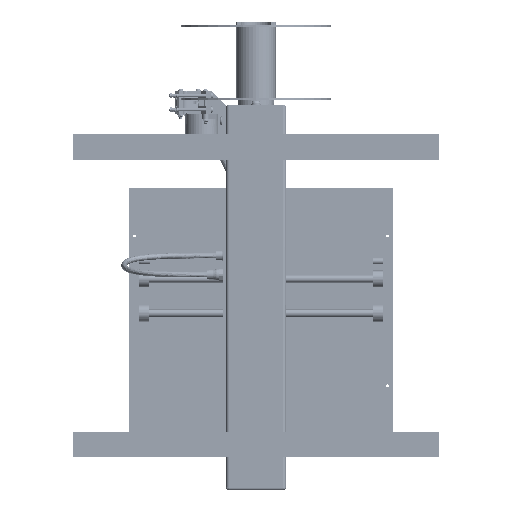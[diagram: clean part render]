
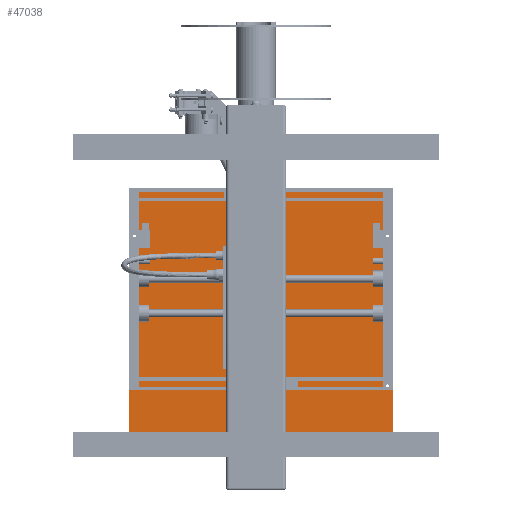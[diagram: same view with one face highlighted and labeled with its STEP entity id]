
A CAD part, front view. The second image highlights one B-rep face of the part: STEP entity #47038.
In plain terms, the highlighted planar face has unit normal (0, -1, 0).
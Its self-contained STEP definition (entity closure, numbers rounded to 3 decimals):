
#3523=LINE($,#70694,#7040);
#3527=LINE($,#70702,#7044);
#3530=LINE($,#70708,#7047);
#3533=LINE($,#70713,#7050);
#7040=VECTOR($,#56220,26.);
#7044=VECTOR($,#56226,28.);
#7047=VECTOR($,#56231,26.);
#7050=VECTOR($,#56236,28.);
#10404=PLANE($,#50256);
#11915=FACE_BOUND($,#16061,.T.);
#11916=FACE_BOUND($,#16062,.T.);
#11917=FACE_BOUND($,#16063,.T.);
#11918=FACE_BOUND($,#16064,.T.);
#11919=FACE_BOUND($,#16065,.T.);
#16061=EDGE_LOOP($,(#34049));
#16062=EDGE_LOOP($,(#34050));
#16063=EDGE_LOOP($,(#34051));
#16064=EDGE_LOOP($,(#34052));
#16065=EDGE_LOOP($,(#34053,#34054,#34055,#34056));
#19611=CIRCLE($,#50241,0.15);
#19613=CIRCLE($,#50244,0.15);
#19615=CIRCLE($,#50247,0.15);
#19617=CIRCLE($,#50250,0.15);
#21707=VERTEX_POINT($,#70672);
#21709=VERTEX_POINT($,#70677);
#21711=VERTEX_POINT($,#70682);
#21713=VERTEX_POINT($,#70687);
#21715=VERTEX_POINT($,#70692);
#21716=VERTEX_POINT($,#70693);
#21719=VERTEX_POINT($,#70701);
#21721=VERTEX_POINT($,#70707);
#26640=EDGE_CURVE($,#21707,#21707,#19611,.T.);
#26642=EDGE_CURVE($,#21709,#21709,#19613,.T.);
#26644=EDGE_CURVE($,#21711,#21711,#19615,.T.);
#26646=EDGE_CURVE($,#21713,#21713,#19617,.T.);
#26648=EDGE_CURVE($,#21715,#21716,#3523,.T.);
#26652=EDGE_CURVE($,#21716,#21719,#3527,.T.);
#26655=EDGE_CURVE($,#21719,#21721,#3530,.T.);
#26658=EDGE_CURVE($,#21721,#21715,#3533,.T.);
#34049=ORIENTED_EDGE($,*,*,#26640,.T.);
#34050=ORIENTED_EDGE($,*,*,#26642,.T.);
#34051=ORIENTED_EDGE($,*,*,#26644,.T.);
#34052=ORIENTED_EDGE($,*,*,#26646,.T.);
#34053=ORIENTED_EDGE($,*,*,#26658,.T.);
#34054=ORIENTED_EDGE($,*,*,#26648,.T.);
#34055=ORIENTED_EDGE($,*,*,#26652,.T.);
#34056=ORIENTED_EDGE($,*,*,#26655,.T.);
#47038=ADVANCED_FACE($,(#11915,#11916,#11917,#11918,#11919),#10404,.F.);
#50241=AXIS2_PLACEMENT_3D($,#70673,#56196,#56197);
#50244=AXIS2_PLACEMENT_3D($,#70678,#56202,#56203);
#50247=AXIS2_PLACEMENT_3D($,#70683,#56208,#56209);
#50250=AXIS2_PLACEMENT_3D($,#70688,#56214,#56215);
#50256=AXIS2_PLACEMENT_3D($,#70715,#56238,#56239);
#56196=DIRECTION('center_axis',(0.,1.,0.));
#56197=DIRECTION('ref_axis',(0.,0.,
-1.));
#56202=DIRECTION('center_axis',(0.,1.,0.));
#56203=DIRECTION('ref_axis',(0.,0.,
-1.));
#56208=DIRECTION('center_axis',(0.,1.,0.));
#56209=DIRECTION('ref_axis',(0.,0.,
-1.));
#56214=DIRECTION('center_axis',(0.,1.,0.));
#56215=DIRECTION('ref_axis',(0.,0.,
-1.));
#56220=DIRECTION($,(0.,0.,-1.));
#56226=DIRECTION($,(1.,0.,0.));
#56231=DIRECTION($,(0.,0.,1.));
#56236=DIRECTION($,(-1.,0.,0.));
#56238=DIRECTION('center_axis',(0.,1.,0.));
#56239=DIRECTION('ref_axis',(0.,0.,1.));
#70672=CARTESIAN_POINT('',(-24.481,0.,4.084));
#70673=CARTESIAN_POINT('Origin',(-24.481,0.,
3.934));
#70677=CARTESIAN_POINT('',(2.409,0.,20.004));
#70678=CARTESIAN_POINT('Origin',(2.409,0.,
19.854));
#70682=CARTESIAN_POINT('',(-24.481,0.,20.004));
#70683=CARTESIAN_POINT('Origin',(-24.481,0.,
19.854));
#70687=CARTESIAN_POINT('',(2.409,0.,4.084));
#70688=CARTESIAN_POINT('Origin',(2.409,0.,
3.934));
#70692=CARTESIAN_POINT('',(-25.036,0.,24.944));
#70693=CARTESIAN_POINT('',(-25.036,0.,-1.056));
#70694=CARTESIAN_POINT($,(-25.036,0.,24.944));
#70701=CARTESIAN_POINT('',(2.964,0.,-1.056));
#70702=CARTESIAN_POINT($,(-4.036,0.,-1.056));
#70707=CARTESIAN_POINT('',(2.964,0.,24.944));
#70708=CARTESIAN_POINT($,(2.964,0.,3.944));
#70713=CARTESIAN_POINT($,(2.964,0.,24.944));
#70715=CARTESIAN_POINT('Origin',(-11.036,0.,14.444));
